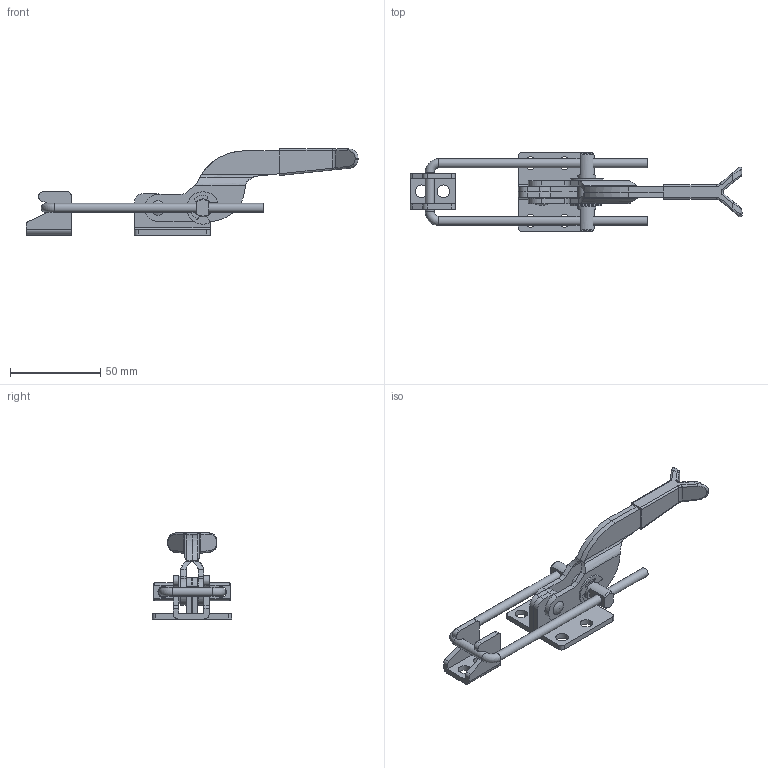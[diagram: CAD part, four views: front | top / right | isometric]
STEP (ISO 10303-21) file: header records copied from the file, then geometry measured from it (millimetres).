
FILE_DESCRIPTION(/* description */ (''),/* implementation_level */ '2;1');
FILE_NAME(/* name */ '\\NAS\db20\C-032-42F\DR_C-032-42F.stp',/* time_stamp */ '2018-03-02T10:17:43+09:00',/* author */ ('user'),/* organization */ (''),/* preprocessor_version */ 'ST-DEVELOPER v15.6',/* originating_system */ 'Autodesk Inventor 2015',/* authorisation */ '');
FILE_SCHEMA (('AUTOMOTIVE_DESIGN { 1 0 10303 214 3 1 1 }'));
Length unit declared in the file: millimetre
Products named in the file (7): DR_C-032-42F-A; DR_C-032-42F-B; DR_C-032-42F-C; DR_C-032-42F-H; DR_E링; DR_C-032-42F-BR; DR_C-032-42F
Bounding box: 184.15 x 44 x 47.7 mm (x, y, z)
Volume: 33173.8 mm3; surface area: 30544.5 mm2
Topology: 11 solids, 11 shells, 273 faces, 708 edges, 461 vertices
Faces by surface type: cylinder 123, plane 115, bspline 24, torus 5, cone 4, sphere 2
Full cylindrical faces by diameter (mm): 3.5 x1, 4 x2, 5 x3, 6 x2, 7 x6, 7.5 x2, 10 x5
Entity records: 8293 total; most frequent: CARTESIAN_POINT 2018, DIRECTION 1292, ORIENTED_EDGE 1234, EDGE_CURVE 617, AXIS2_PLACEMENT_3D 483, VERTEX_POINT 413, LINE 326, VECTOR 326
